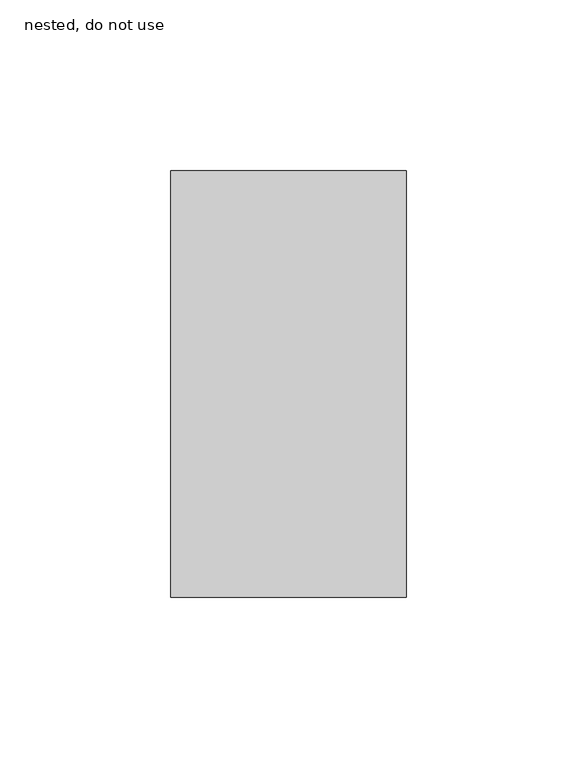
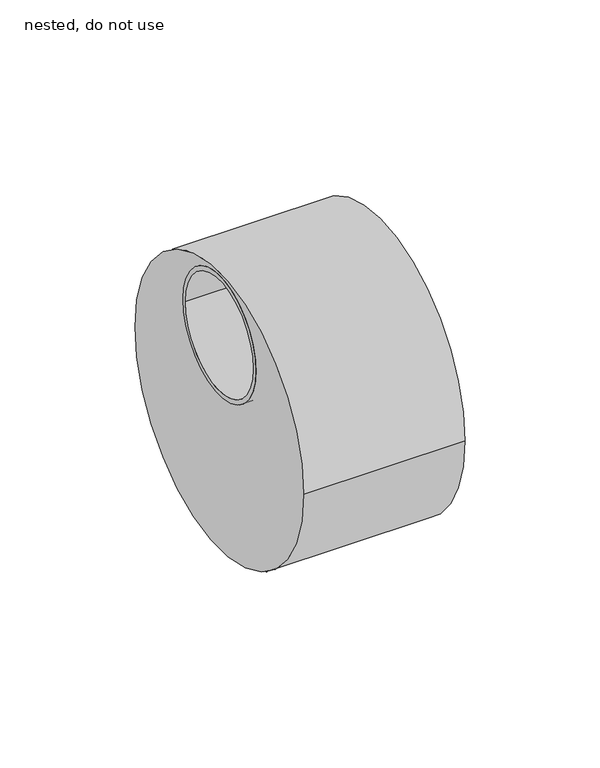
"""IFC4 building model written with IfcOpenShell, lengths in millimetres: pipe fitting geometry, NLRS_52_PIF_UN_Vacurain Flex verloop LV_SH_Dyka : nested, do not use."""

from ifc_helpers import new_model, si_unit, point, frame, frame_2d, origin, place, context, project, spatial, polyline, circle_curve, trimmed, segment, composite_curve, outline, extrude, source, transform, mapped, element, save
from ifc_brep_helpers import plane_surface, cylinder_surface, revolved_surface, advanced_brep


def nested_do_not_use_9aa22a94(model_context):
    return source(origin(), model_context, "Body", "SolidModel", [
        extrude(outline(composite_curve([segment(trimmed(circle_curve(frame_2d((0.0, 34.0)), 27.0), [point((-27.0, 34.0))], [point((27.0, 34.0))], False, "CARTESIAN"), True, "CONTINUOUS"), segment(trimmed(circle_curve(frame_2d((0.0, 34.0)), 27.0), [point((27.0, 34.0))], [point((-27.0, 34.0))], False, "CARTESIAN"), True, "CONTINUOUS")], self_intersect=False), holes=[composite_curve([segment(trimmed(circle_curve(frame_2d((0.0, 34.0)), 25.0), [point((-25.0, 34.0))], [point((25.0, 34.0))], True, "CARTESIAN"), True, "CONTINUOUS"), segment(trimmed(circle_curve(frame_2d((0.0, 34.0)), 25.0), [point((25.0, 34.0))], [point((-25.0, 34.0))], True, "CARTESIAN"), True, "CONTINUOUS")], self_intersect=False)]), frame((-54.0, 0.0, 0.0), z_axis=(1.0, 0.0, 0.0), x_axis=(0.0, 1.0, 0.0)), (0.0, 0.0, 1.0), 31.0),
        advanced_brep(
        [(-54.0, -62.5, 0.0), (-54.0, 62.5, 0.0), (-54.0, -25.0, 34.0), (-54.0, 25.0, 34.0), (15.0, -62.5, 0.0), (15.0, 62.5, 0.0), (-23.0, -25.0, 34.0), (-23.0, 25.0, 34.0)],
        [
            (0, 1, circle_curve(frame((-54.0, 0.0, 0.0), z_axis=(-1.0, 0.0, 0.0), x_axis=(0.0, 1.0, 0.0)), 62.5)),
            (1, 0, circle_curve(frame((-54.0, 0.0, 0.0), z_axis=(-1.0, 0.0, 0.0), x_axis=(0.0, 1.0, 0.0)), 62.5)),
            (2, 3, circle_curve(frame((-54.0, 0.0, 34.0), z_axis=(1.0, 0.0, 0.0), x_axis=(0.0, 1.0, 0.0)), 25.0)),
            (3, 2, circle_curve(frame((-54.0, 0.0, 34.0), z_axis=(1.0, 0.0, 0.0), x_axis=(0.0, 1.0, 0.0)), 25.0)),
            (4, 5, circle_curve(frame((15.0, 0.0, 0.0), z_axis=(1.0, 0.0, 0.0), x_axis=(0.0, 1.0, 0.0)), 62.5)),
            (5, 4, circle_curve(frame((15.0, 0.0, 0.0), z_axis=(1.0, 0.0, 0.0), x_axis=(0.0, 1.0, 0.0)), 62.5)),
            (1, 5),
            (4, 0),
            (6, 7, circle_curve(frame((-23.0, 0.0, 34.0), z_axis=(-1.0, 0.0, 0.0), x_axis=(0.0, 1.0, 0.0)), 25.0)),
            (7, 6, circle_curve(frame((-23.0, 0.0, 34.0), z_axis=(-1.0, 0.0, 0.0), x_axis=(0.0, 1.0, 0.0)), 25.0)),
            (7, 3),
            (2, 6),
        ],
        [
            plane_surface(frame((-54.0, 62.5, 0.0), z_axis=(-1.0, 0.0, 0.0), x_axis=(0.0, 0.0, -1.0))),
            plane_surface(frame((15.0, 62.5, 0.0), z_axis=(1.0, 0.0, 0.0), x_axis=(0.0, 0.0, 1.0))),
            cylinder_surface(frame((-54.0, 0.0, 0.0), z_axis=(1.0, 0.0, 0.0), x_axis=(0.0, 1.0, 0.0)), 62.5),
            plane_surface(frame((-23.0, 25.0, 34.0), z_axis=(-1.0, 0.0, 0.0), x_axis=(0.0, 0.0, 1.0))),
            revolved_surface(polyline([(-23.0, 25.0, 34.0), (-54.0, 25.0, 34.0)]), (-54.0, 0.0, 34.0), (1.0, 0.0, 0.0)),
        ],
        [
            (0, [[1, 2], [3, 4]]),
            (1, [[5, 6]]),
            (2, [[-2, 7, -5, 8]]),
            (2, [[-1, -8, -6, -7]]),
            (3, [[9, 10]]),
            (4, [[-10, 11, -3, 12]]),
            (4, [[-9, -12, -4, -11]]),
        ],
    ),
    ])


if __name__ == "__main__":
    model = new_model("IFC4")
    model_context = context("Model", 3, world=origin())
    ifc_project = project(units=[si_unit("LENGTHUNIT", "METRE", prefix="MILLI")], contexts=[model_context])
    site = spatial("IfcSite", under=ifc_project)
    building = spatial("IfcBuilding", under=site)
    placement = place(None, origin())
    nested_do_not_use_shape = nested_do_not_use_9aa22a94(model_context)
    element("IfcPipeFitting", 1, ObjectType="NLRS_52_PIF_UN_Vacurain Flex verloop LV_SH_Dyka : nested, do not use", at=placement, inside=building, context=model_context, shape_type="MappedRepresentation", body=[
        mapped(nested_do_not_use_shape, transform((0.0, 0.0, 0.0), x_axis=(1.0, 0.0, 0.0), y_axis=(0.0, 1.0, 0.0), z_axis=(0.0, 0.0, 1.0))),
    ])
    save(model, "model.ifc")
